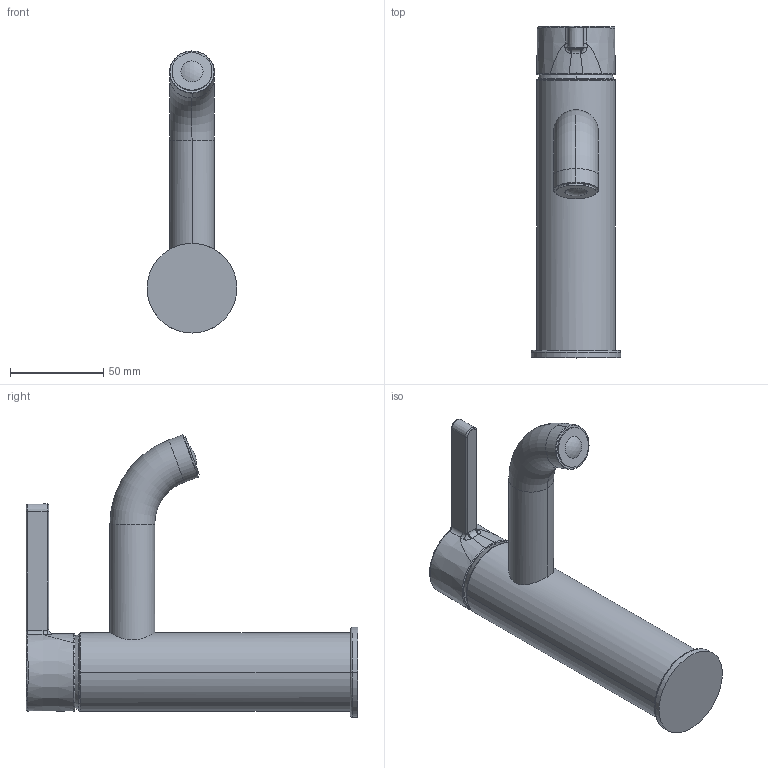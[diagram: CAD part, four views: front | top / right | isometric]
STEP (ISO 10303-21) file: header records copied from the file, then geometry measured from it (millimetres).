
FILE_DESCRIPTION((''),'2;1');
FILE_NAME('12421051_071','2018-10-04T',('DB991'),(''),'CREO PARAMETRIC BY PTC INC, 2016260','CREO PARAMETRIC BY PTC INC, 2016260','');
FILE_SCHEMA(('CONFIG_CONTROL_DESIGN'));
Length unit declared in the file: millimetre
Products named in the file (1): 12421051_071
Bounding box: 48 x 177.5 x 150.98 mm (x, y, z)
Volume: 303608.4 mm3; surface area: 39110.6 mm2
Topology: 1 solids, 2 shells, 86 faces, 236 edges, 156 vertices
Faces by surface type: cylinder 25, torus 23, bspline 17, plane 10, cone 7, sphere 4
Entity records: 4276 total; most frequent: CARTESIAN_POINT 2117, ORIENTED_EDGE 466, DIRECTION 440, EDGE_CURVE 233, AXIS2_PLACEMENT_3D 201, VERTEX_POINT 156, CIRCLE 132, EDGE_LOOP 93
